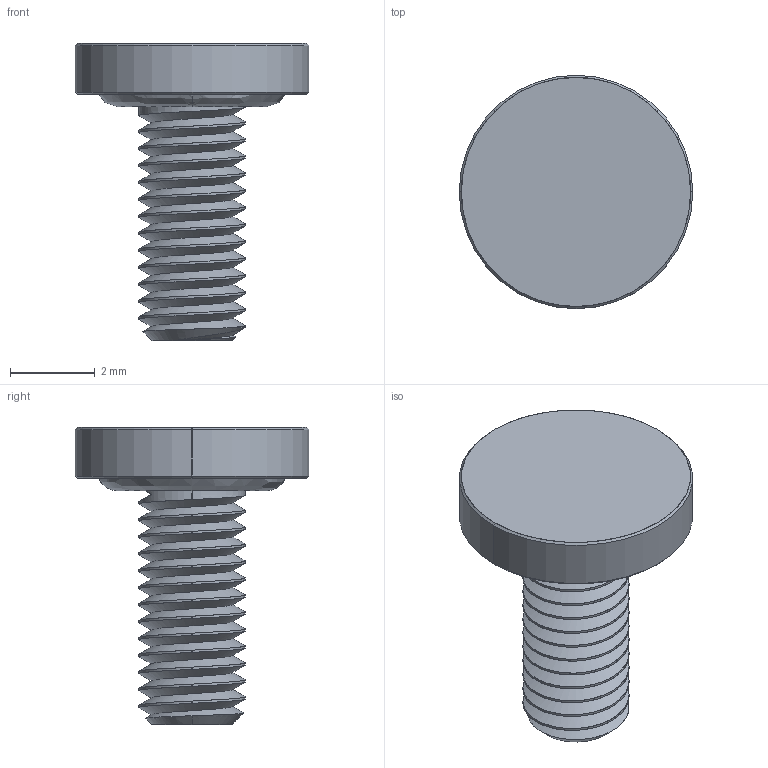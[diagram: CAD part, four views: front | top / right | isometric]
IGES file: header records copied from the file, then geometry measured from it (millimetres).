
Start section: SolidWorks IGES file using analytic representation for surfaces
Global section: file name: F:\OneDrive\Desktop\Coda\20.7\Contact Lands RTP Completed\IPM3G RTP\IPM3G no nut.IGS; native system: SolidWorks 2021; preprocessor: SolidWorks 2021; author: Georg; date: 210720.112758; units: millimetre
Bounding box: 5.5 x 5.5 x 7 mm (x, y, z)
Surface area: 187.2 mm2 (no closed solid volume)
Topology: 0 solids, 0 shells, 57 faces, 1011 edges, 1011 vertices
Faces by surface type: revolution 38, bspline 19
